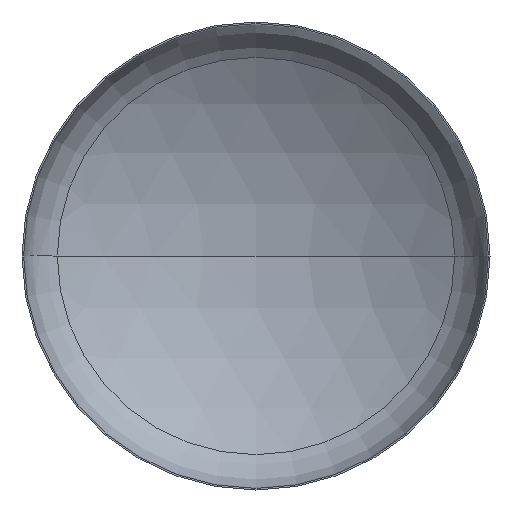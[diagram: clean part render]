
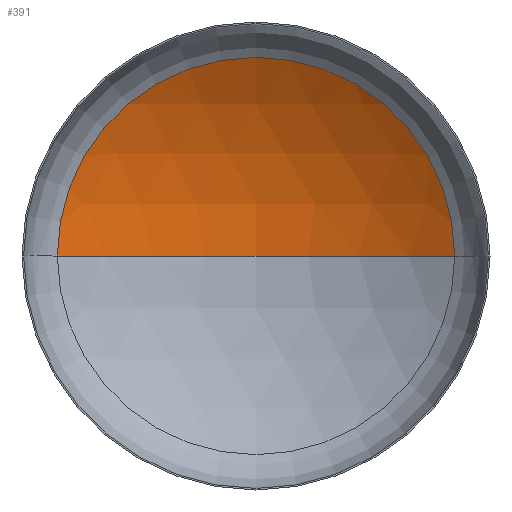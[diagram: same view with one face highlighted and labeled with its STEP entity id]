
A CAD part, front view. The second image highlights one B-rep face of the part: STEP entity #391.
In plain terms, the highlighted spherical face has radius 6400 mm.
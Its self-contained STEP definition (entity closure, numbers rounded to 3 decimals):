
#9 = CIRCLE ( 'NONE', #411, 3395.59 ) ;
#10 = ORIENTED_EDGE ( 'NONE', *, *, #22, .T. ) ;
#22 = EDGE_CURVE ( 'NONE', #98, #30, #357, .T. ) ;
#30 = VERTEX_POINT ( 'NONE', #273 ) ;
#37 = ORIENTED_EDGE ( 'NONE', *, *, #72, .T. ) ;
#43 = ORIENTED_EDGE ( 'NONE', *, *, #401, .F. ) ;
#54 = AXIS2_PLACEMENT_3D ( 'NONE', #229, #221, #208 ) ;
#60 = VERTEX_POINT ( 'NONE', #359 ) ;
#72 = EDGE_CURVE ( 'NONE', #30, #60, #9, .T. ) ;
#83 = EDGE_LOOP ( 'NONE', ( #43, #10, #37 ) ) ;
#98 = VERTEX_POINT ( 'NONE', #182 ) ;
#117 = DIRECTION ( 'NONE',  ( 0., 0., 1. ) ) ;
#121 = DIRECTION ( 'NONE',  ( 1., 0., 0. ) ) ;
#164 = DIRECTION ( 'NONE',  ( 0., 0., -1. ) ) ;
#182 = CARTESIAN_POINT ( 'NONE',  ( 0., 2102.666, 0. ) ) ;
#207 = CIRCLE ( 'NONE', #323, 6400. ) ;
#208 = DIRECTION ( 'NONE',  ( -1., 0., 0. ) ) ;
#220 = FACE_OUTER_BOUND ( 'NONE', #83, .T. ) ;
#221 = DIRECTION ( 'NONE',  ( 0., 0., -1. ) ) ;
#229 = CARTESIAN_POINT ( 'NONE',  ( 0., -4297.334, 0. ) ) ;
#273 = CARTESIAN_POINT ( 'NONE',  ( 3395.59, 1127.606, 0. ) ) ;
#295 = CARTESIAN_POINT ( 'NONE',  ( 0., -4297.334, 0. ) ) ;
#304 = AXIS2_PLACEMENT_3D ( 'NONE', #295, #164, #370 ) ;
#321 = DIRECTION ( 'NONE',  ( 1., 0., 0. ) ) ;
#323 = AXIS2_PLACEMENT_3D ( 'NONE', #390, #117, #121 ) ;
#324 = DIRECTION ( 'NONE',  ( 0., -1., 0. ) ) ;
#326 = CARTESIAN_POINT ( 'NONE',  ( 0., 1127.606, 0. ) ) ;
#357 = CIRCLE ( 'NONE', #54, 6400. ) ;
#359 = CARTESIAN_POINT ( 'NONE',  ( -3395.59, 1127.606, 0. ) ) ;
#370 = DIRECTION ( 'NONE',  ( -1., 0., 0. ) ) ;
#390 = CARTESIAN_POINT ( 'NONE',  ( 0., -4297.334, 0. ) ) ;
#391 = ADVANCED_FACE ( 'NONE', ( #220 ), #402, .F. ) ;
#401 = EDGE_CURVE ( 'NONE', #98, #60, #207, .T. ) ;
#402 = SPHERICAL_SURFACE ( 'NONE', #304, 6400. ) ;
#411 = AXIS2_PLACEMENT_3D ( 'NONE', #326, #324, #321 ) ;
